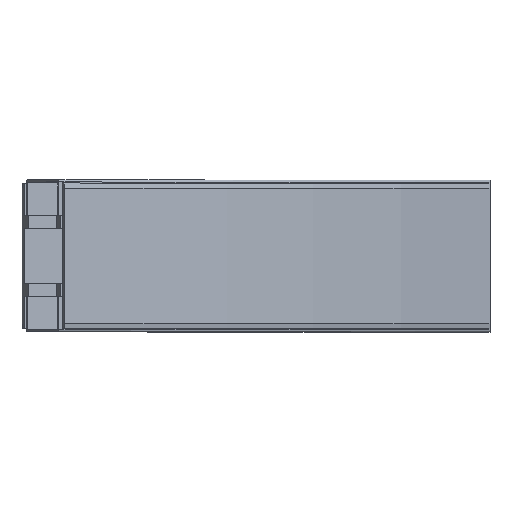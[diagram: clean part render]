
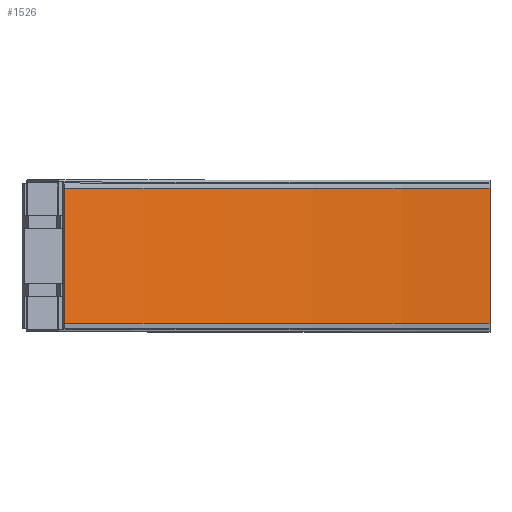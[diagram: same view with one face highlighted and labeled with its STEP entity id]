
A CAD part, top view. The second image highlights one B-rep face of the part: STEP entity #1526.
In plain terms, the highlighted cylindrical face has radius 817.5 mm (diameter 1635 mm), a partial arc.
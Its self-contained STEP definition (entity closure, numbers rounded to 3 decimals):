
#80=CYLINDRICAL_SURFACE('',#1643,817.5);
#149=FACE_OUTER_BOUND('',#236,.T.);
#236=EDGE_LOOP('',(#1052,#1053,#1054,#1055));
#323=CIRCLE('',#1633,817.5);
#328=CIRCLE('',#1642,817.5);
#400=LINE('',#2215,#526);
#401=LINE('',#2216,#527);
#526=VECTOR('',#1808,10.);
#527=VECTOR('',#1809,10.);
#643=VERTEX_POINT('',#2183);
#644=VERTEX_POINT('',#2185);
#652=VERTEX_POINT('',#2209);
#653=VERTEX_POINT('',#2211);
#799=EDGE_CURVE('',#643,#644,#323,.T.);
#813=EDGE_CURVE('',#652,#653,#328,.T.);
#814=EDGE_CURVE('',#643,#652,#400,.T.);
#815=EDGE_CURVE('',#644,#653,#401,.T.);
#1052=ORIENTED_EDGE('',*,*,#814,.T.);
#1053=ORIENTED_EDGE('',*,*,#813,.T.);
#1054=ORIENTED_EDGE('',*,*,#815,.F.);
#1055=ORIENTED_EDGE('',*,*,#799,.F.);
#1526=ADVANCED_FACE('',(#149),#80,.F.);
#1633=AXIS2_PLACEMENT_3D('',#2186,#1777,#1778);
#1642=AXIS2_PLACEMENT_3D('',#2213,#1804,#1805);
#1643=AXIS2_PLACEMENT_3D('',#2214,#1806,#1807);
#1777=DIRECTION('center_axis',(0.,1.,0.));
#1778=DIRECTION('ref_axis',(0.,0.,-1.));
#1804=DIRECTION('center_axis',(0.,1.,0.));
#1805=DIRECTION('ref_axis',(0.,0.,-1.));
#1806=DIRECTION('center_axis',(0.,1.,0.));
#1807=DIRECTION('ref_axis',(0.,0.,-1.));
#1808=DIRECTION('',(0.,1.,0.));
#1809=DIRECTION('',(0.,1.,0.));
#2183=CARTESIAN_POINT('',(0.,-65.,42.5));
#2185=CARTESIAN_POINT('',(-408.75,-65.,152.024));
#2186=CARTESIAN_POINT('Origin',(0.,-65.,860.));
#2209=CARTESIAN_POINT('',(0.,65.,42.5));
#2211=CARTESIAN_POINT('',(-408.75,65.,152.024));
#2213=CARTESIAN_POINT('Origin',(0.,65.,860.));
#2214=CARTESIAN_POINT('Origin',(0.,0.,860.));
#2215=CARTESIAN_POINT('',(0.,-65.,42.5));
#2216=CARTESIAN_POINT('',(-408.75,-65.,152.024));
